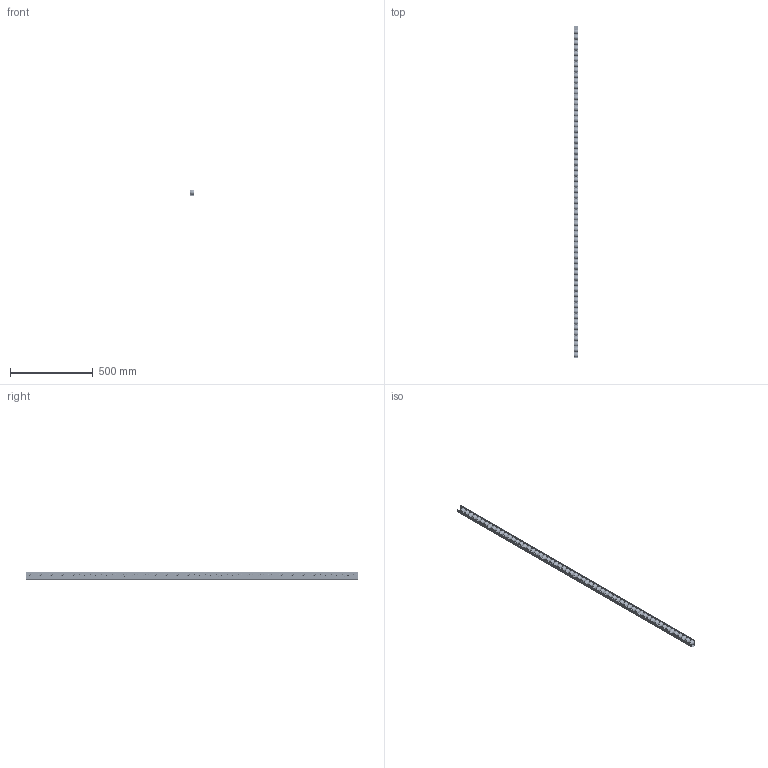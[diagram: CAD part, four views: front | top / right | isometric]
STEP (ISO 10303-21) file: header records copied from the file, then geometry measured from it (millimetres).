
FILE_DESCRIPTION(/* description */ ('Unknown'),/* implementation_level */ '2;1');
FILE_NAME(/* name */ 'Listwa T100GL_33',/* time_stamp */ '2024-12-17T13:03:48+01:00',/* author */ ('Unknown'),/* organization */ ('Unknown'),/* preprocessor_version */ 'ST-DEVELOPER v18.104',/* originating_system */ 'Solid Edge',/* authorisation */ 'Unknown');
FILE_SCHEMA (('AUTOMOTIVE_DESIGN {1 0 10303 214 3 1 1}'));
Length unit declared in the file: millimetre
Products named in the file (6): Listwa T100GL_33; Ceownik T100L_33; Rolka T 100G; 790-02-01; 790-02-02; Nit.
Assembly tree (123 placements, depth 3):
  Listwa T100GL_33
    Ceownik T100L_33
    Rolka T 100G  x60
      790-02-01
      790-02-02
    Nit.  x60
Bounding box: 30 x 2000 x 44 mm (x, y, z)
Volume: 948122.3 mm3; surface area: 912306.5 mm2
Topology: 181 solids, 181 shells, 5565 faces, 14800 edges, 9837 vertices
Faces by surface type: plane 4450, cylinder 815, torus 180, cone 120
Full cylindrical faces by diameter (mm): 2 x60, 4.2 x31, 5 x60, 5.2 x120, 5.3 x60, 6 x120, 11.5 x120, 16 x120, 20 x120
Entity records: 9329 total; most frequent: DIRECTION 1708, CARTESIAN_POINT 1409, ORIENTED_EDGE 1106, AXIS2_PLACEMENT_3D 776, EDGE_LOOP 732, FACE_BOUND 732, EDGE_CURVE 553, VERTEX_POINT 477
